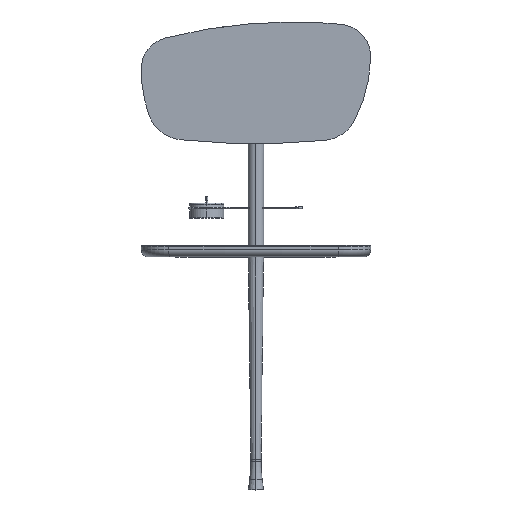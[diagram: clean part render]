
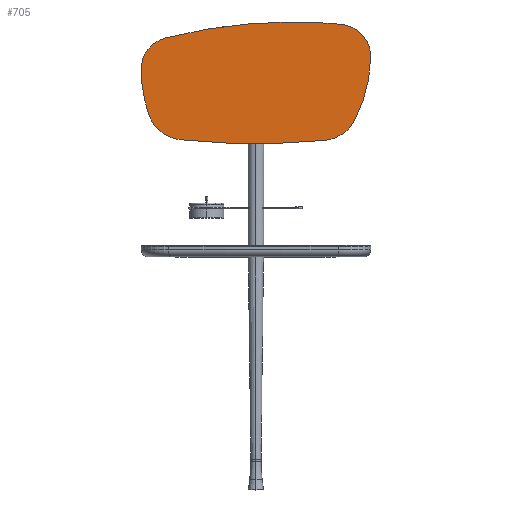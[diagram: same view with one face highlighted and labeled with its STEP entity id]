
A CAD part, top view. The second image highlights one B-rep face of the part: STEP entity #705.
In plain terms, the highlighted planar face has unit normal (0, 0, 1).
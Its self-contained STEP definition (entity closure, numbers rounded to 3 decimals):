
#30 = DIRECTION ( 'NONE',  ( 0., 0., 1. ) ) ;
#51 = AXIS2_PLACEMENT_3D ( 'NONE', #7535, #3044, #639 ) ;
#198 = CARTESIAN_POINT ( 'NONE',  ( -383.958, 1108.078, 769.496 ) ) ;
#268 = CARTESIAN_POINT ( 'NONE',  ( -38.409, 1203.073, 769.496 ) ) ;
#285 = ORIENTED_EDGE ( 'NONE', *, *, #2397, .T. ) ;
#469 = EDGE_CURVE ( 'NONE', #7251, #3455, #5776, .T. ) ;
#639 = DIRECTION ( 'NONE',  ( 1., 0., 0. ) ) ;
#705 = ADVANCED_FACE ( 'NONE', ( #4233 ), #8240, .T. ) ;
#774 = CARTESIAN_POINT ( 'NONE',  ( -280.181, 1337.264, 769.496 ) ) ;
#1064 = DIRECTION ( 'NONE',  ( 1., 0., 0. ) ) ;
#1307 = VERTEX_POINT ( 'NONE', #4774 ) ;
#1417 = EDGE_CURVE ( 'NONE', #4323, #7592, #3427, .T. ) ;
#1444 = DIRECTION ( 'NONE',  ( 1., 0., 0. ) ) ;
#1479 = EDGE_LOOP ( 'NONE', ( #7404, #8483, #3401, #4033, #8637, #2832, #5134, #4050, #285 ) ) ;
#1654 = DIRECTION ( 'NONE',  ( 1., 0., 0. ) ) ;
#1655 = DIRECTION ( 'NONE',  ( 1., 0., 0. ) ) ;
#1825 = VERTEX_POINT ( 'NONE', #7048 ) ;
#2397 = EDGE_CURVE ( 'NONE', #1307, #6771, #8095, .T. ) ;
#2707 = EDGE_CURVE ( 'NONE', #6771, #1825, #4376, .T. ) ;
#2832 = ORIENTED_EDGE ( 'NONE', *, *, #8228, .T. ) ;
#2840 = DIRECTION ( 'NONE',  ( 0., 0., 1. ) ) ;
#2904 = AXIS2_PLACEMENT_3D ( 'NONE', #6965, #4229, #4067 ) ;
#2932 = DIRECTION ( 'NONE',  ( 0., 0., 1. ) ) ;
#3044 = DIRECTION ( 'NONE',  ( 0., 0., 1. ) ) ;
#3057 = AXIS2_PLACEMENT_3D ( 'NONE', #5836, #2932, #1654 ) ;
#3401 = ORIENTED_EDGE ( 'NONE', *, *, #6280, .T. ) ;
#3427 = CIRCLE ( 'NONE', #9732, 1488.028 ) ;
#3438 = CARTESIAN_POINT ( 'NONE',  ( -337.378, 738.68, 769.496 ) ) ;
#3455 = VERTEX_POINT ( 'NONE', #3787 ) ;
#3545 = DIRECTION ( 'NONE',  ( 0., 0., 1. ) ) ;
#3579 = AXIS2_PLACEMENT_3D ( 'NONE', #5090, #7669, #3673 ) ;
#3603 = AXIS2_PLACEMENT_3D ( 'NONE', #3984, #2840, #6213 ) ;
#3605 = DIRECTION ( 'NONE',  ( 0., 0., 1. ) ) ;
#3618 = CIRCLE ( 'NONE', #51, 1488.028 ) ;
#3673 = DIRECTION ( 'NONE',  ( 1., 0., 0. ) ) ;
#3787 = CARTESIAN_POINT ( 'NONE',  ( -114.04, 689.446, 769.496 ) ) ;
#3830 = CARTESIAN_POINT ( 'NONE',  ( -149.825, 793.463, 769.496 ) ) ;
#3894 = VERTEX_POINT ( 'NONE', #774 ) ;
#3984 = CARTESIAN_POINT ( 'NONE',  ( -147.9, 1192.499, 769.496 ) ) ;
#4033 = ORIENTED_EDGE ( 'NONE', *, *, #1417, .T. ) ;
#4050 = ORIENTED_EDGE ( 'NONE', *, *, #8315, .T. ) ;
#4067 = DIRECTION ( 'NONE',  ( 1., 0., 0. ) ) ;
#4229 = DIRECTION ( 'NONE',  ( 0., 0., 1. ) ) ;
#4233 = FACE_OUTER_BOUND ( 'NONE', #1479, .T. ) ;
#4323 = VERTEX_POINT ( 'NONE', #9760 ) ;
#4376 = CIRCLE ( 'NONE', #3603, 110. ) ;
#4452 = DIRECTION ( 'NONE',  ( 0., 0., 1. ) ) ;
#4658 = CIRCLE ( 'NONE', #9214, 417.998 ) ;
#4774 = CARTESIAN_POINT ( 'NONE',  ( -40.441, 781.833, 769.496 ) ) ;
#4988 = VERTEX_POINT ( 'NONE', #3438 ) ;
#5090 = CARTESIAN_POINT ( 'NONE',  ( -245.351, 762.263, 769.496 ) ) ;
#5134 = ORIENTED_EDGE ( 'NONE', *, *, #469, .T. ) ;
#5290 = CARTESIAN_POINT ( 'NONE',  ( -246.73, 1075.145, 769.496 ) ) ;
#5776 = CIRCLE ( 'NONE', #7425, 407.885 ) ;
#5836 = CARTESIAN_POINT ( 'NONE',  ( -219.092, 1055.943, 769.496 ) ) ;
#5892 = EDGE_CURVE ( 'NONE', #7592, #4988, #3618, .T. ) ;
#6163 = CIRCLE ( 'NONE', #2904, 95. ) ;
#6213 = DIRECTION ( 'NONE',  ( 1., 0., 0. ) ) ;
#6280 = EDGE_CURVE ( 'NONE', #3894, #4323, #6163, .T. ) ;
#6404 = DIRECTION ( 'NONE',  ( 1., 0., 0. ) ) ;
#6578 = CARTESIAN_POINT ( 'NONE',  ( -290.285, 919.388, 769.496 ) ) ;
#6771 = VERTEX_POINT ( 'NONE', #268 ) ;
#6897 = CARTESIAN_POINT ( 'NONE',  ( -244.933, 667.264, 769.496 ) ) ;
#6965 = CARTESIAN_POINT ( 'NONE',  ( -282.477, 1242.292, 769.496 ) ) ;
#7032 = CARTESIAN_POINT ( 'NONE',  ( 1104.07, 1108.078, 769.496 ) ) ;
#7048 = CARTESIAN_POINT ( 'NONE',  ( -97.048, 1290.039, 769.496 ) ) ;
#7129 = CIRCLE ( 'NONE', #3579, 95. ) ;
#7251 = VERTEX_POINT ( 'NONE', #6897 ) ;
#7276 = EDGE_CURVE ( 'NONE', #1825, #3894, #4658, .T. ) ;
#7404 = ORIENTED_EDGE ( 'NONE', *, *, #2707, .T. ) ;
#7425 = AXIS2_PLACEMENT_3D ( 'NONE', #5290, #30, #1444 ) ;
#7535 = CARTESIAN_POINT ( 'NONE',  ( 1104.07, 1108.078, 769.496 ) ) ;
#7592 = VERTEX_POINT ( 'NONE', #198 ) ;
#7669 = DIRECTION ( 'NONE',  ( 0., 0., 1. ) ) ;
#7717 = AXIS2_PLACEMENT_3D ( 'NONE', #9778, #3605, #1655 ) ;
#8095 = CIRCLE ( 'NONE', #7717, 2086.87 ) ;
#8228 = EDGE_CURVE ( 'NONE', #4988, #7251, #7129, .T. ) ;
#8240 = PLANE ( 'NONE',  #3057 ) ;
#8315 = EDGE_CURVE ( 'NONE', #3455, #1307, #8470, .T. ) ;
#8470 = CIRCLE ( 'NONE', #9792, 110. ) ;
#8483 = ORIENTED_EDGE ( 'NONE', *, *, #7276, .T. ) ;
#8637 = ORIENTED_EDGE ( 'NONE', *, *, #5892, .T. ) ;
#9214 = AXIS2_PLACEMENT_3D ( 'NONE', #6578, #3545, #6404 ) ;
#9217 = DIRECTION ( 'NONE',  ( 1., 0., 0. ) ) ;
#9362 = DIRECTION ( 'NONE',  ( 0., 0., 1. ) ) ;
#9732 = AXIS2_PLACEMENT_3D ( 'NONE', #7032, #4452, #1064 ) ;
#9760 = CARTESIAN_POINT ( 'NONE',  ( -377.035, 1251.445, 769.496 ) ) ;
#9778 = CARTESIAN_POINT ( 'NONE',  ( -2115.615, 1002.467, 769.496 ) ) ;
#9792 = AXIS2_PLACEMENT_3D ( 'NONE', #3830, #9362, #9217 ) ;
